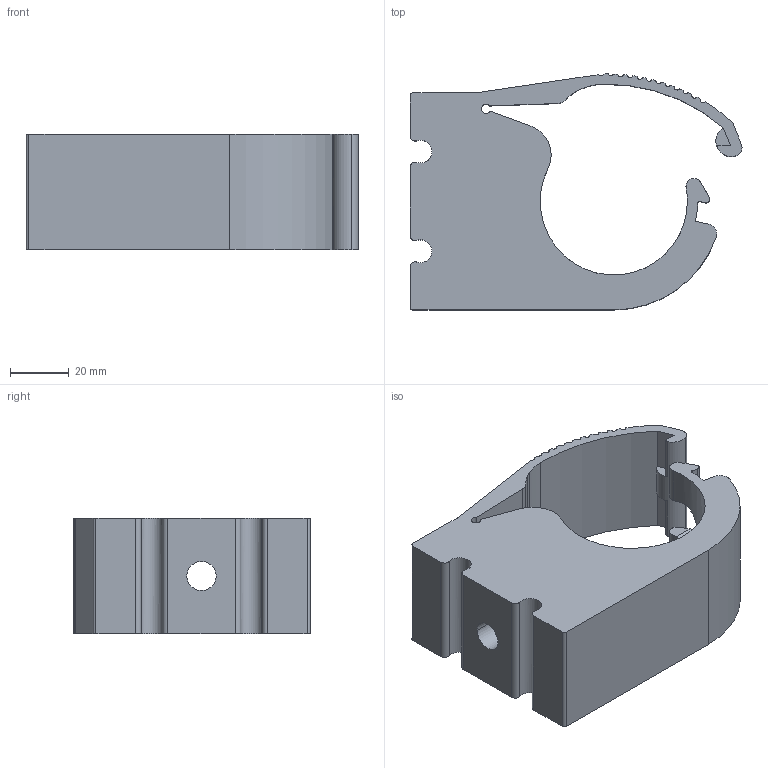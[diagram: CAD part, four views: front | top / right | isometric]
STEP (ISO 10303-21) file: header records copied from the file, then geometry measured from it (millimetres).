
FILE_DESCRIPTION((''),'2;1');
FILE_NAME('AU15502200','2017-05-16T',('Administrator'),(''),'PRO/ENGINEER BY PARAMETRIC TECHNOLOGY CORPORATION, 2009360','PRO/ENGINEER BY PARAMETRIC TECHNOLOGY CORPORATION, 2009360','');
FILE_SCHEMA(('AUTOMOTIVE_DESIGN_CC2 { 1 2 10303 214 -1 1 5 2 }'));
Length unit declared in the file: millimetre
Products named in the file (1): AU15502200
Bounding box: 112.55 x 80.01 x 39.16 mm (x, y, z)
Volume: 165127.1 mm3; surface area: 34594.6 mm2
Topology: 1 solids, 1 shells, 97 faces, 343 edges, 250 vertices
Faces by surface type: cylinder 63, plane 34
Entity records: 5040 total; most frequent: CARTESIAN_POINT 823, DIRECTION 699, ORIENTED_EDGE 686, PRESENTATION_STYLE_ASSIGNMENT 344, STYLED_ITEM 344, CURVE_STYLE 343, EDGE_CURVE 343, AXIS2_PLACEMENT_3D 279
